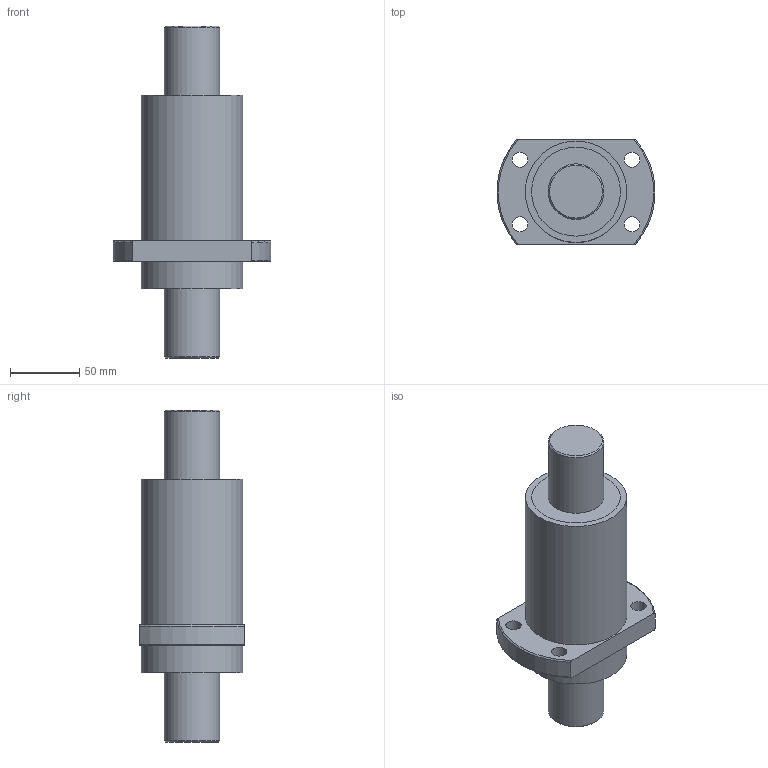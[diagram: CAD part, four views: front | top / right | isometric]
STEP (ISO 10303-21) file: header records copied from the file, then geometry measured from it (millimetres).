
FILE_DESCRIPTION(/* description */ (''),/* implementation_level */ '2;1');
FILE_NAME(/* name */ 'SFY40401.stp',/* time_stamp */ '2014-02-21T10:40:06+08:00',/* author */ (''),/* organization */ (''),/* preprocessor_version */ 'ST-DEVELOPER v11',/* originating_system */ 'SIEMENS UGS NX 6.0',/* authorisation */ '');
FILE_SCHEMA (('CONFIG_CONTROL_DESIGN'));
Length unit declared in the file: millimetre
Products named in the file (1): fann4717bkdi
Bounding box: 113.64 x 75 x 239 mm (x, y, z)
Volume: 757034.7 mm3; surface area: 113329.5 mm2
Topology: 4 solids, 4 shells, 52 faces, 97 edges, 65 vertices
Faces by surface type: cylinder 24, plane 22, torus 4, cone 2
Full cylindrical faces by diameter (mm): 11 x4, 40 x4, 58 x4, 64 x4, 65.5 x4, 73 x2
Entity records: 1404 total; most frequent: CARTESIAN_POINT 318, DIRECTION 224, ORIENTED_EDGE 140, AXIS2_PLACEMENT_3D 108, EDGE_LOOP 102, FACE_BOUND 92, EDGE_CURVE 70, VERTEX_POINT 62
